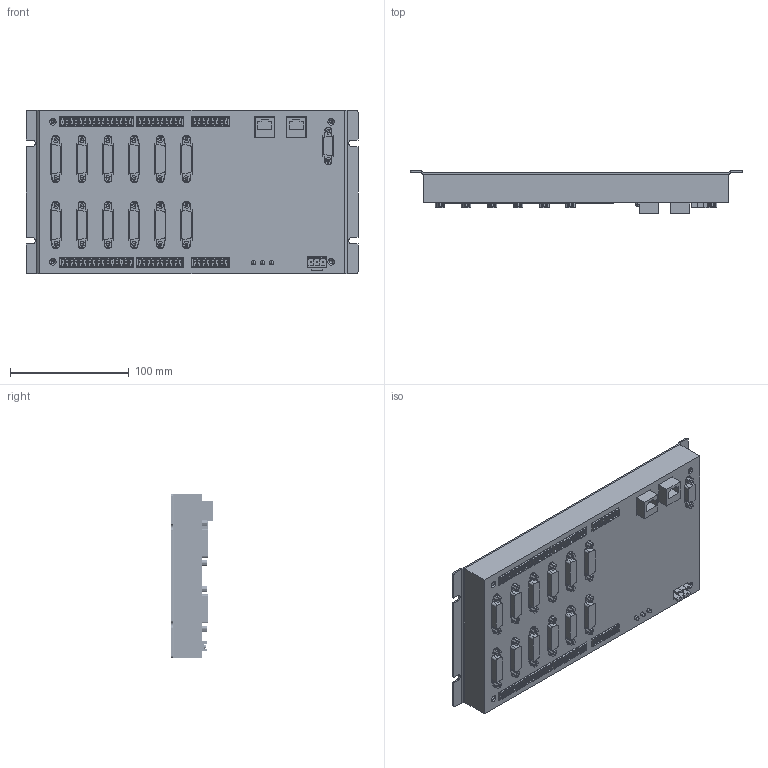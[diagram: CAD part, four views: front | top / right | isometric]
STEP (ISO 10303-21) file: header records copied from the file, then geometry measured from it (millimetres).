
FILE_DESCRIPTION (( 'STEP AP214' ), '1' );
FILE_NAME ('QLS-822V2.0.STEP', '2025-09-16T00:36:40', ( '' ), ( '' ), 'SwSTEP 2.0', 'SolidWorks 2025', '' );
FILE_SCHEMA (( 'AUTOMOTIVE_DESIGN' ));
Length unit declared in the file: millimetre
Products named in the file (18): QLS-822-PCB板; QLS-822下壳; 直插式10pin插拔式连接器-母座; DB9装配体; 螺母柱M3-5; 直插式发光二级管-3mm; 直插式12pin插拔式连接器-母座; QLS-822上壳; 散热风扇40-10; QLS-822V2.0; DB15; 端子KF2EDGVR5点083Pin; DB15装配体; 网口; 螺母柱M3-3; DB9; QLS-822板-装配体(A3); 直插式8pin插拔式连接器-母座
Assembly tree (40 placements, depth 4):
  QLS-822V2.0
    QLS-822下壳
    QLS-822板-装配体(A3)
      QLS-822-PCB板
      网口  x2
      直插式12pin插拔式连接器-母座  x2
      直插式发光二级管-3mm  x3
      端子KF2EDGVR5点083Pin
      直插式10pin插拔式连接器-母座  x2
      直插式8pin插拔式连接器-母座  x2
      DB15装配体  x12
        DB15
        螺母柱M3-3
        螺母柱M3-5
      DB9装配体
        DB9
        螺母柱M3-3  x2
        螺母柱M3-5  x2
    QLS-822上壳
    散热风扇40-10
Bounding box: 279.41 x 35.7 x 138 mm (x, y, z)
Volume: 217856.9 mm3; surface area: 316921.9 mm2
Topology: 152 solids, 152 shells, 4920 faces, 12552 edges, 8220 vertices
Faces by surface type: plane 2805, cylinder 1841, cone 268, sphere 6
Entity records: 76766 total; most frequent: DIRECTION 13239, CARTESIAN_POINT 12925, ORIENTED_EDGE 12612, EDGE_CURVE 6306, AXIS2_PLACEMENT_3D 4517, LINE 4205, VECTOR 4205, VERTEX_POINT 4187
